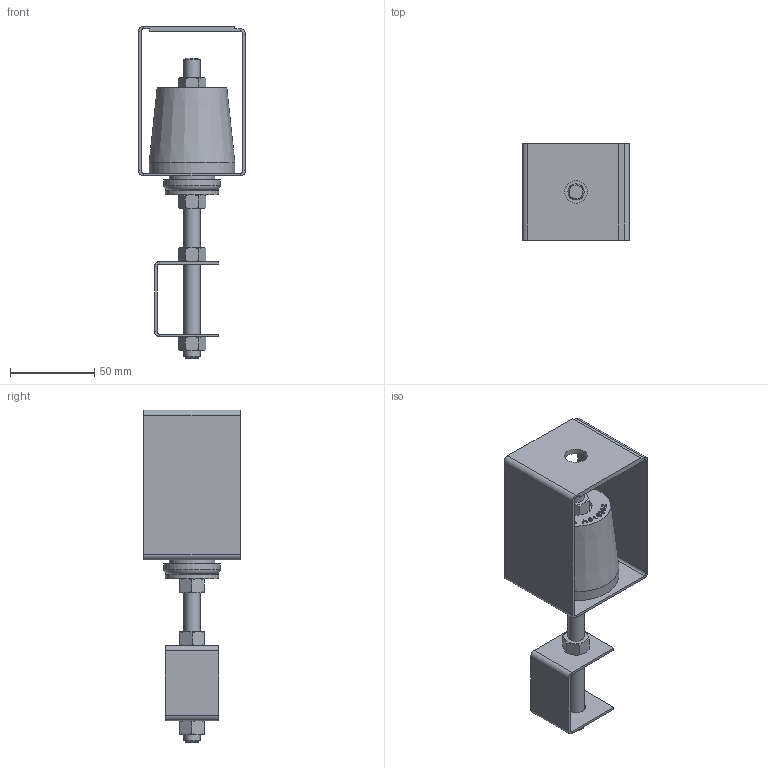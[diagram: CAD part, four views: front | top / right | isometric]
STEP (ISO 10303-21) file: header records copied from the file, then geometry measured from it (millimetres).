
FILE_DESCRIPTION(/* description */ (''),/* implementation_level */ '2;1');
FILE_NAME(/* name */ 'C:\001_Work\Designs\HANGER BOXES\ARCHITECTURAL CEILING HANGERS\HDCC-A\HDCC-A.stp',/* time_stamp */ '2016-01-28T11:16:40-05:00',/* author */ ('rramoutar'),/* organization */ ('Mason Industries Inc.'),/* preprocessor_version */ 'ST-DEVELOPER v15.6',/* originating_system */ 'Autodesk Inventor 2015',/* authorisation */ '');
FILE_SCHEMA (('CONFIG_CONTROL_DESIGN'));
Length unit declared in the file: inch
Products named in the file (1): A-31971HDCC-A
Bounding box: 63.5 x 57.15 x 196.85 mm (x, y, z)
Volume: 140387.5 mm3; surface area: 70789.2 mm2
Topology: 10 solids, 10 shells, 441 faces, 1075 edges, 683 vertices
Faces by surface type: plane 231, bspline 119, cone 59, cylinder 31, torus 1
Full cylindrical faces by diameter (mm): 7.798 x4, 9.525 x1, 10.319 x2, 11.112 x2, 12.7 x1, 13.494 x1, 19.05 x1, 26.987 x2, 31.75 x1, 33.337 x1, 38.1 x2, 50.8 x1
Entity records: 14000 total; most frequent: CARTESIAN_POINT 4275, ORIENTED_EDGE 2074, DIRECTION 1471, EDGE_CURVE 1037, VERTEX_POINT 676, LINE 581, VECTOR 581, EDGE_LOOP 525
